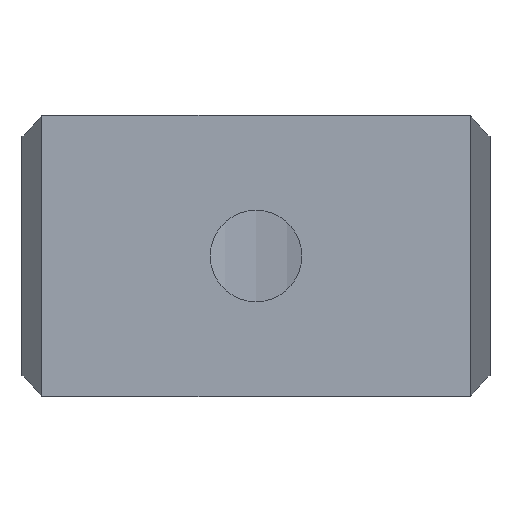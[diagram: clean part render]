
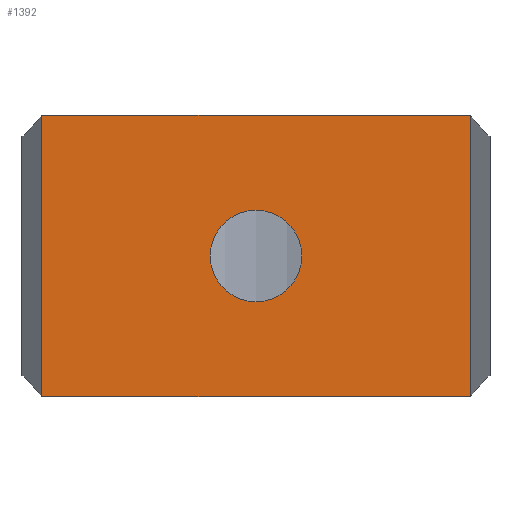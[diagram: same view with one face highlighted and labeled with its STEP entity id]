
A CAD part, front view. The second image highlights one B-rep face of the part: STEP entity #1392.
In plain terms, the highlighted planar face has unit normal (0, -1, 0).
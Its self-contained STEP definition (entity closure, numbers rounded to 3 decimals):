
#46 = EDGE_LOOP ( 'NONE', ( #1618, #2467 ) ) ;
#48 = DIRECTION ( 'NONE',  ( 0., 0., -1. ) ) ;
#83 = ORIENTED_EDGE ( 'NONE', *, *, #271, .F. ) ;
#241 = CARTESIAN_POINT ( 'NONE',  ( 0., 0., 3.25 ) ) ;
#271 = EDGE_CURVE ( 'NONE', #384, #3871, #3112, .T. ) ;
#276 = AXIS2_PLACEMENT_3D ( 'NONE', #1245, #1212, #3689 ) ;
#384 = VERTEX_POINT ( 'NONE', #452 ) ;
#452 = CARTESIAN_POINT ( 'NONE',  ( 15.2, 0., 10. ) ) ;
#519 = DIRECTION ( 'NONE',  ( -1., 0., 0. ) ) ;
#582 = CARTESIAN_POINT ( 'NONE',  ( 0., 0., -3.25 ) ) ;
#647 = VECTOR ( 'NONE', #3673, 1000. ) ;
#678 = VERTEX_POINT ( 'NONE', #582 ) ;
#865 = LINE ( 'NONE', #3305, #3343 ) ;
#950 = VECTOR ( 'NONE', #48, 1000. ) ;
#1047 = CARTESIAN_POINT ( 'NONE',  ( -15.2, 0., 10. ) ) ;
#1212 = DIRECTION ( 'NONE',  ( 0., -1., 0. ) ) ;
#1226 = CARTESIAN_POINT ( 'NONE',  ( -15.2, 0., -10. ) ) ;
#1245 = CARTESIAN_POINT ( 'NONE',  ( 0., 0., 10. ) ) ;
#1264 = DIRECTION ( 'NONE',  ( 0., 0., 1. ) ) ;
#1313 = VERTEX_POINT ( 'NONE', #241 ) ;
#1392 = ADVANCED_FACE ( 'NONE', ( #2469, #2197 ), #1571, .T. ) ;
#1442 = EDGE_CURVE ( 'NONE', #2882, #2330, #2841, .T. ) ;
#1571 = PLANE ( 'NONE',  #276 ) ;
#1618 = ORIENTED_EDGE ( 'NONE', *, *, #1934, .T. ) ;
#1705 = ORIENTED_EDGE ( 'NONE', *, *, #2969, .F. ) ;
#1910 = CARTESIAN_POINT ( 'NONE',  ( 0., 0., 0. ) ) ;
#1934 = EDGE_CURVE ( 'NONE', #1313, #678, #2947, .T. ) ;
#2028 = LINE ( 'NONE', #3893, #3010 ) ;
#2135 = DIRECTION ( 'NONE',  ( -1., 0., 0. ) ) ;
#2197 = FACE_OUTER_BOUND ( 'NONE', #2408, .T. ) ;
#2236 = DIRECTION ( 'NONE',  ( 0., 1., 0. ) ) ;
#2315 = AXIS2_PLACEMENT_3D ( 'NONE', #2770, #3431, #2787 ) ;
#2330 = VERTEX_POINT ( 'NONE', #1226 ) ;
#2408 = EDGE_LOOP ( 'NONE', ( #1705, #83, #3876, #3784 ) ) ;
#2431 = CARTESIAN_POINT ( 'NONE',  ( -15.2, 0., 10. ) ) ;
#2467 = ORIENTED_EDGE ( 'NONE', *, *, #2549, .T. ) ;
#2469 = FACE_BOUND ( 'NONE', #46, .T. ) ;
#2549 = EDGE_CURVE ( 'NONE', #678, #1313, #3386, .T. ) ;
#2770 = CARTESIAN_POINT ( 'NONE',  ( 0., 0., 0. ) ) ;
#2787 = DIRECTION ( 'NONE',  ( 0., 0., 1. ) ) ;
#2841 = LINE ( 'NONE', #2431, #647 ) ;
#2882 = VERTEX_POINT ( 'NONE', #1047 ) ;
#2883 = CARTESIAN_POINT ( 'NONE',  ( 15.2, 0., -10. ) ) ;
#2947 = CIRCLE ( 'NONE', #3332, 3.25 ) ;
#2969 = EDGE_CURVE ( 'NONE', #3871, #2330, #2028, .T. ) ;
#3010 = VECTOR ( 'NONE', #519, 1000. ) ;
#3112 = LINE ( 'NONE', #3328, #950 ) ;
#3305 = CARTESIAN_POINT ( 'NONE',  ( 0., 0., 10. ) ) ;
#3328 = CARTESIAN_POINT ( 'NONE',  ( 15.2, 0., 10. ) ) ;
#3332 = AXIS2_PLACEMENT_3D ( 'NONE', #1910, #2236, #1264 ) ;
#3343 = VECTOR ( 'NONE', #2135, 1000. ) ;
#3386 = CIRCLE ( 'NONE', #2315, 3.25 ) ;
#3431 = DIRECTION ( 'NONE',  ( 0., 1., 0. ) ) ;
#3631 = EDGE_CURVE ( 'NONE', #384, #2882, #865, .T. ) ;
#3673 = DIRECTION ( 'NONE',  ( 0., 0., -1. ) ) ;
#3689 = DIRECTION ( 'NONE',  ( 1., 0., 0. ) ) ;
#3784 = ORIENTED_EDGE ( 'NONE', *, *, #1442, .T. ) ;
#3871 = VERTEX_POINT ( 'NONE', #2883 ) ;
#3876 = ORIENTED_EDGE ( 'NONE', *, *, #3631, .T. ) ;
#3893 = CARTESIAN_POINT ( 'NONE',  ( 0., 0., -10. ) ) ;
